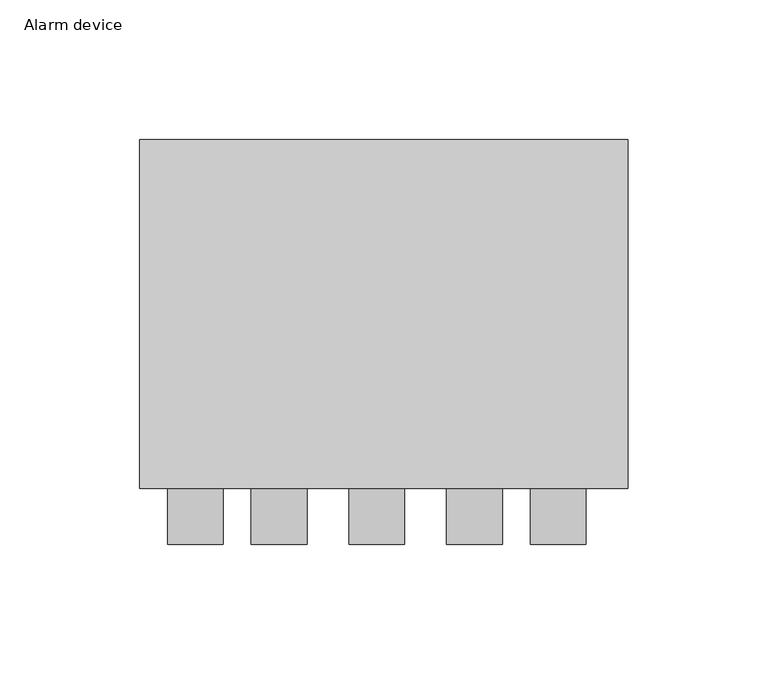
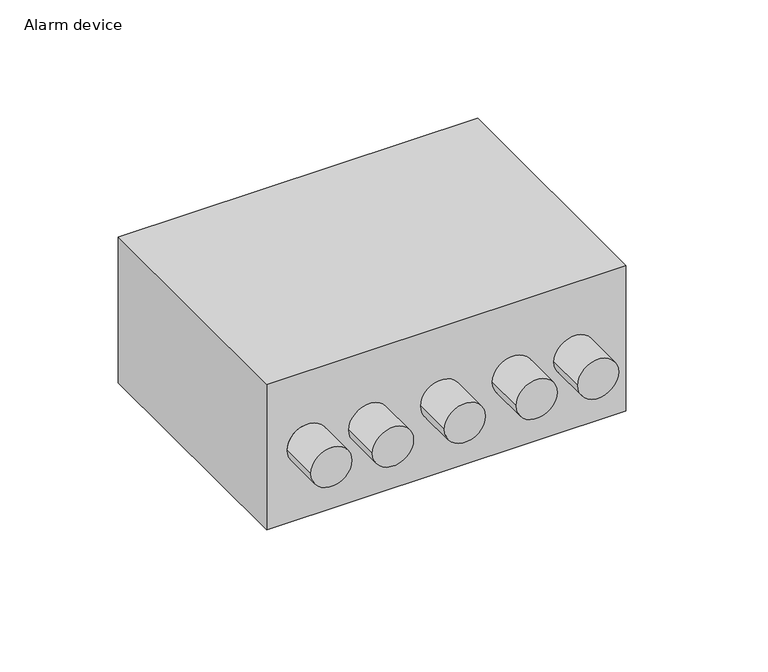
"""IFC4 building model written with IfcOpenShell, lengths in millimetres: proxy geometry, CD_PVC_WPB_signalling device_ACO : Alarm device."""

from ifc_helpers import new_model, si_unit, frame, origin, place, context, project, spatial, circle_curve, source, transform, mapped, element, save
from ifc_brep_helpers import plane_surface, cylinder_surface, advanced_brep


def alarm_device_213a9ecc(model_context):
    return source(origin(), model_context, "Body", "AdvancedBrep", [
        advanced_brep(
        [(87.5, 62.5, 75.0), (-87.5, 62.5, 75.0), (-87.5, -62.5, 75.0), (87.5, -62.5, 75.0), (87.5, 62.5, 0.0), (87.5, -62.5, 0.0), (-87.5, -62.5, 0.0), (-87.5, 62.5, 0.0), (-57.5, -62.5, 37.5), (-77.5, -62.5, 37.5), (-27.5, -62.5, 37.5), (-47.5, -62.5, 37.5), (7.5, -62.5, 37.5), (-12.5, -62.5, 37.5), (72.5, -62.5, 37.5), (52.5, -62.5, 37.5), (42.5, -62.5, 37.5), (22.5, -62.5, 37.5), (-77.5, -82.5, 37.5), (-57.5, -82.5, 37.5), (-47.5, -82.5, 37.5), (-27.5, -82.5, 37.5), (-12.5, -82.5, 37.5), (7.5, -82.5, 37.5), (52.5, -82.5, 37.5), (72.5, -82.5, 37.5), (22.5, -82.5, 37.5), (42.5, -82.5, 37.5)],
        [
            (0, 1),
            (1, 2),
            (2, 3),
            (3, 0),
            (4, 5),
            (5, 6),
            (6, 7),
            (7, 4),
            (0, 4),
            (7, 1),
            (6, 2),
            (5, 3),
            (8, 9, circle_curve(frame((-67.5, -62.5, 37.5), z_axis=(0.0, 1.0, 0.0), x_axis=(1.0, 0.0, 0.0)), 10.0)),
            (9, 8, circle_curve(frame((-67.5, -62.5, 37.5), z_axis=(0.0, 1.0, 0.0), x_axis=(1.0, 0.0, 0.0)), 10.0)),
            (10, 11, circle_curve(frame((-37.5, -62.5, 37.5), z_axis=(0.0, 1.0, 0.0), x_axis=(1.0, 0.0, 0.0)), 10.0)),
            (11, 10, circle_curve(frame((-37.5, -62.5, 37.5), z_axis=(0.0, 1.0, 0.0), x_axis=(1.0, 0.0, 0.0)), 10.0)),
            (12, 13, circle_curve(frame((-2.5, -62.5, 37.5), z_axis=(0.0, 1.0, 0.0), x_axis=(1.0, 0.0, 0.0)), 10.0)),
            (13, 12, circle_curve(frame((-2.5, -62.5, 37.5), z_axis=(0.0, 1.0, 0.0), x_axis=(1.0, 0.0, 0.0)), 10.0)),
            (14, 15, circle_curve(frame((62.5, -62.5, 37.5), z_axis=(0.0, 1.0, 0.0), x_axis=(1.0, 0.0, 0.0)), 10.0)),
            (15, 14, circle_curve(frame((62.5, -62.5, 37.5), z_axis=(0.0, 1.0, 0.0), x_axis=(1.0, 0.0, 0.0)), 10.0)),
            (16, 17, circle_curve(frame((32.5, -62.5, 37.5), z_axis=(0.0, 1.0, 0.0), x_axis=(1.0, 0.0, 0.0)), 10.0)),
            (17, 16, circle_curve(frame((32.5, -62.5, 37.5), z_axis=(0.0, 1.0, 0.0), x_axis=(1.0, 0.0, 0.0)), 10.0)),
            (18, 19, circle_curve(frame((-67.5, -82.5, 37.5), z_axis=(0.0, -1.0, 0.0), x_axis=(1.0, 0.0, 0.0)), 10.0)),
            (19, 18, circle_curve(frame((-67.5, -82.5, 37.5), z_axis=(0.0, -1.0, 0.0), x_axis=(1.0, 0.0, 0.0)), 10.0)),
            (20, 21, circle_curve(frame((-37.5, -82.5, 37.5), z_axis=(0.0, -1.0, 0.0), x_axis=(1.0, 0.0, 0.0)), 10.0)),
            (21, 20, circle_curve(frame((-37.5, -82.5, 37.5), z_axis=(0.0, -1.0, 0.0), x_axis=(1.0, 0.0, 0.0)), 10.0)),
            (22, 23, circle_curve(frame((-2.5, -82.5, 37.5), z_axis=(0.0, -1.0, 0.0), x_axis=(1.0, 0.0, 0.0)), 10.0)),
            (23, 22, circle_curve(frame((-2.5, -82.5, 37.5), z_axis=(0.0, -1.0, 0.0), x_axis=(1.0, 0.0, 0.0)), 10.0)),
            (24, 25, circle_curve(frame((62.5, -82.5, 37.5), z_axis=(0.0, -1.0, 0.0), x_axis=(1.0, 0.0, 0.0)), 10.0)),
            (25, 24, circle_curve(frame((62.5, -82.5, 37.5), z_axis=(0.0, -1.0, 0.0), x_axis=(1.0, 0.0, 0.0)), 10.0)),
            (26, 27, circle_curve(frame((32.5, -82.5, 37.5), z_axis=(0.0, -1.0, 0.0), x_axis=(1.0, 0.0, 0.0)), 10.0)),
            (27, 26, circle_curve(frame((32.5, -82.5, 37.5), z_axis=(0.0, -1.0, 0.0), x_axis=(1.0, 0.0, 0.0)), 10.0)),
            (18, 9),
            (8, 19),
            (20, 11),
            (10, 21),
            (22, 13),
            (12, 23),
            (24, 15),
            (14, 25),
            (26, 17),
            (16, 27),
        ],
        [
            plane_surface(frame((-87.5, 62.5, 75.0), z_axis=(0.0, 0.0, 1.0), x_axis=(-1.0, 0.0, 0.0))),
            plane_surface(frame((-87.5, 62.5, 0.0), z_axis=(0.0, 0.0, -1.0), x_axis=(1.0, 0.0, 0.0))),
            plane_surface(frame((87.5, 62.5, 75.0), z_axis=(0.0, 1.0, 0.0), x_axis=(0.0, 0.0, -1.0))),
            plane_surface(frame((-87.5, 62.5, 75.0), z_axis=(-1.0, 0.0, 0.0), x_axis=(0.0, 0.0, -1.0))),
            plane_surface(frame((-87.5, -62.5, 75.0), z_axis=(0.0, -1.0, 0.0), x_axis=(0.0, 0.0, -1.0))),
            plane_surface(frame((87.5, -62.5, 75.0), z_axis=(1.0, 0.0, 0.0), x_axis=(0.0, 0.0, -1.0))),
            plane_surface(frame((-57.5, -82.5, 37.5), z_axis=(0.0, -1.0, 0.0), x_axis=(0.0, 0.0, 1.0))),
            cylinder_surface(frame((-67.5, -62.5, 37.5), z_axis=(0.0, -1.0, 0.0), x_axis=(1.0, 0.0, 0.0)), 10.0),
            cylinder_surface(frame((-37.5, 0.0, 37.5), z_axis=(0.0, -1.0, 0.0), x_axis=(1.0, 0.0, 0.0)), 10.0),
            cylinder_surface(frame((-2.5, 0.0, 37.5), z_axis=(0.0, -1.0, 0.0), x_axis=(1.0, 0.0, 0.0)), 10.0),
            cylinder_surface(frame((62.5, 0.0, 37.5), z_axis=(0.0, -1.0, 0.0), x_axis=(1.0, 0.0, 0.0)), 10.0),
            cylinder_surface(frame((32.5, 0.0, 37.5), z_axis=(0.0, -1.0, 0.0), x_axis=(1.0, 0.0, 0.0)), 10.0),
        ],
        [
            (0, [[1, 2, 3, 4]]),
            (1, [[5, 6, 7, 8]]),
            (2, [[-1, 9, -8, 10]]),
            (3, [[-2, -10, -7, 11]]),
            (4, [[-3, -11, -6, 12], [13, 14], [15, 16], [17, 18], [19, 20], [21, 22]]),
            (5, [[-4, -12, -5, -9]]),
            (6, [[23, 24]]),
            (6, [[25, 26]]),
            (6, [[27, 28]]),
            (6, [[29, 30]]),
            (6, [[31, 32]]),
            (7, [[-23, 33, -13, 34]]),
            (7, [[-24, -34, -14, -33]]),
            (8, [[-25, 35, -15, 36]]),
            (8, [[-26, -36, -16, -35]]),
            (9, [[-27, 37, -17, 38]]),
            (9, [[-28, -38, -18, -37]]),
            (10, [[-29, 39, -19, 40]]),
            (10, [[-30, -40, -20, -39]]),
            (11, [[-31, 41, -21, 42]]),
            (11, [[-32, -42, -22, -41]]),
        ],
    ),
    ])


if __name__ == "__main__":
    model = new_model("IFC4")
    model_context = context("Model", 3, world=origin())
    ifc_project = project(units=[si_unit("LENGTHUNIT", "METRE", prefix="MILLI")], contexts=[model_context])
    site = spatial("IfcSite", under=ifc_project)
    building = spatial("IfcBuilding", under=site)
    placement = place(None, origin())
    alarm_device_shape = alarm_device_213a9ecc(model_context)
    element("IfcBuildingElementProxy", 1, Name="CD_PVC_WPB_signalling device_ACO : Alarm device", ObjectType="CD_PVC_WPB_signalling device_ACO : Alarm device", at=placement, inside=building, context=model_context, shape_type="MappedRepresentation", body=[
        mapped(alarm_device_shape, transform((0.0, 0.0, 0.0), x_axis=(1.0, 0.0, 0.0), y_axis=(0.0, 1.0, 0.0), z_axis=(0.0, 0.0, 1.0))),
    ])
    save(model, "model.ifc")
